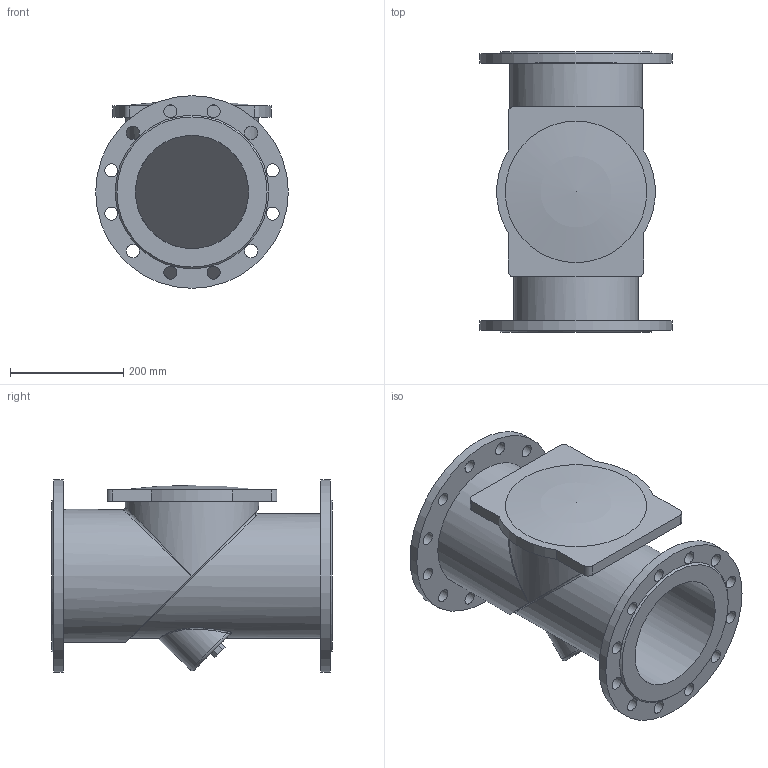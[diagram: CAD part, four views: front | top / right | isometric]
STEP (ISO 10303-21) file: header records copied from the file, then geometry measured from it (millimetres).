
FILE_DESCRIPTION(('STEP AP203'), '1');
FILE_NAME('Êëàïàí îäíîñòâîð÷àòûé îáðàòíûé ôëàíöåâûé 015F.Z DN200 PN16', '', ('UNSPECIFIED'), ('UNSPECIFIED'), 'ASCON STEP Converter 1.6', 'ASCON Math Kernel', '');
FILE_SCHEMA(('CONFIG_CONTROL_DESIGN'));
Length unit declared in the file: millimetre
Bounding box: 340 x 495 x 340 mm (x, y, z)
Volume: 8836497.5 mm3; surface area: 1164499.1 mm2
Topology: 1 solids, 2 shells, 78 faces, 183 edges, 118 vertices
Faces by surface type: cylinder 41, plane 27, bspline 6, cone 2, torus 1, sphere 1
Full cylindrical faces by diameter (mm): 23 x24, 200 x2, 215 x1, 220 x1, 235 x2, 340 x2
Entity records: 4377 total; most frequent: CARTESIAN_POINT 1986, DIRECTION 346, ORIENTED_EDGE 288, EDGE_LOOP 173, AXIS2_PLACEMENT_3D 152, EDGE_CURVE 144, VERTEX_POINT 117, FACE_BOUND 104
